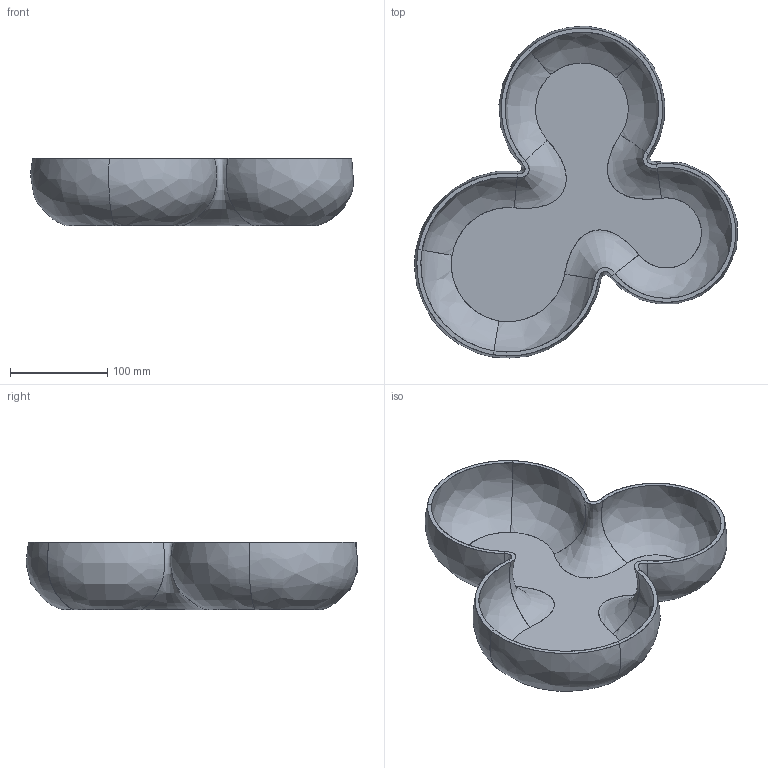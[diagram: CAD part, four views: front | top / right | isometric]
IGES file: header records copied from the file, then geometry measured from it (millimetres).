
Global section: file name: C:\Users\colombo_c\Desktop\Danese\Sito\3D mancanti\MCV\MCV.igs; native system: Rhinoceros ( Apr 16 2024 ); preprocessor: Trout Lake IGES 012 Apr 16 2024; date: 250710.093106; units: millimetre
Bounding box: 331.13 x 340.55 x 69.17 mm (x, y, z)
Surface area: 247772.8 mm2 (no closed solid volume)
Topology: 0 solids, 0 shells, 33 faces, 541 edges, 541 vertices
Faces by surface type: bspline 33
